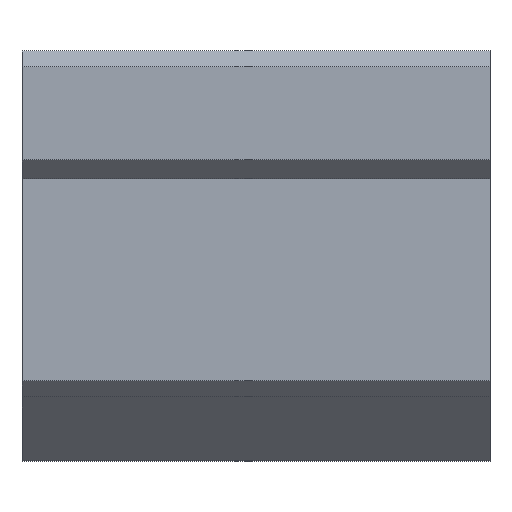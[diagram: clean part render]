
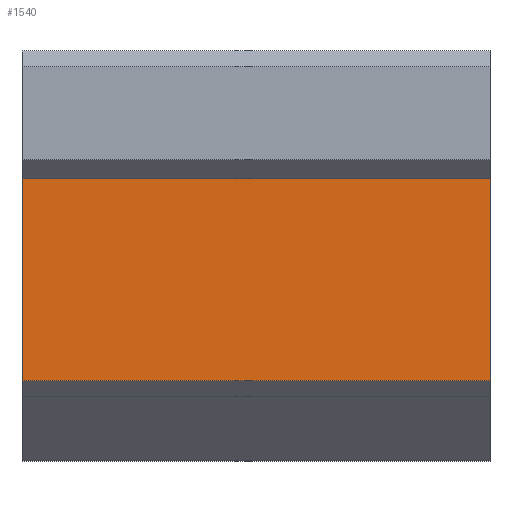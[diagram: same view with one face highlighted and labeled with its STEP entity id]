
A CAD part, top view. The second image highlights one B-rep face of the part: STEP entity #1540.
In plain terms, the highlighted planar face has unit normal (0, 0, 1).
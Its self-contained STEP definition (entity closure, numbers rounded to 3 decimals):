
#19 = VECTOR ( 'NONE', #426, 1000. ) ;
#78 = DIRECTION ( 'NONE',  ( 0., 0., -1. ) ) ;
#116 = ORIENTED_EDGE ( 'NONE', *, *, #782, .T. ) ;
#129 = VERTEX_POINT ( 'NONE', #871 ) ;
#267 = DIRECTION ( 'NONE',  ( -1., 0., 0. ) ) ;
#287 = VERTEX_POINT ( 'NONE', #293 ) ;
#293 = CARTESIAN_POINT ( 'NONE',  ( 44., 26.5, 23.25 ) ) ;
#339 = EDGE_CURVE ( 'NONE', #129, #850, #1495, .T. ) ;
#359 = ORIENTED_EDGE ( 'NONE', *, *, #1417, .F. ) ;
#426 = DIRECTION ( 'NONE',  ( -1., 0., 0. ) ) ;
#438 = VECTOR ( 'NONE', #267, 1000. ) ;
#444 = DIRECTION ( 'NONE',  ( 0., -1., 0. ) ) ;
#533 = EDGE_LOOP ( 'NONE', ( #116, #1173, #359, #711 ) ) ;
#664 = CARTESIAN_POINT ( 'NONE',  ( 44., 26.5, 23.25 ) ) ;
#665 = CARTESIAN_POINT ( 'NONE',  ( 44., 7.5, 23.25 ) ) ;
#711 = ORIENTED_EDGE ( 'NONE', *, *, #773, .T. ) ;
#768 = LINE ( 'NONE', #1264, #1577 ) ;
#773 = EDGE_CURVE ( 'NONE', #287, #1062, #1275, .T. ) ;
#782 = EDGE_CURVE ( 'NONE', #1062, #850, #768, .T. ) ;
#793 = AXIS2_PLACEMENT_3D ( 'NONE', #816, #78, #1208 ) ;
#816 = CARTESIAN_POINT ( 'NONE',  ( 44., 26.5, 23.25 ) ) ;
#850 = VERTEX_POINT ( 'NONE', #1556 ) ;
#871 = CARTESIAN_POINT ( 'NONE',  ( 44., 7.5, 23.25 ) ) ;
#915 = LINE ( 'NONE', #664, #947 ) ;
#947 = VECTOR ( 'NONE', #1527, 1000. ) ;
#994 = CARTESIAN_POINT ( 'NONE',  ( 0., 26.5, 23.25 ) ) ;
#1036 = CARTESIAN_POINT ( 'NONE',  ( 44., 26.5, 23.25 ) ) ;
#1062 = VERTEX_POINT ( 'NONE', #994 ) ;
#1173 = ORIENTED_EDGE ( 'NONE', *, *, #339, .F. ) ;
#1183 = PLANE ( 'NONE',  #793 ) ;
#1208 = DIRECTION ( 'NONE',  ( 1., 0., 0. ) ) ;
#1264 = CARTESIAN_POINT ( 'NONE',  ( 0., 26.5, 23.25 ) ) ;
#1275 = LINE ( 'NONE', #1036, #19 ) ;
#1417 = EDGE_CURVE ( 'NONE', #287, #129, #915, .T. ) ;
#1495 = LINE ( 'NONE', #665, #438 ) ;
#1527 = DIRECTION ( 'NONE',  ( 0., -1., 0. ) ) ;
#1540 = ADVANCED_FACE ( 'NONE', ( #1574 ), #1183, .F. ) ;
#1556 = CARTESIAN_POINT ( 'NONE',  ( 0., 7.5, 23.25 ) ) ;
#1574 = FACE_OUTER_BOUND ( 'NONE', #533, .T. ) ;
#1577 = VECTOR ( 'NONE', #444, 1000. ) ;
